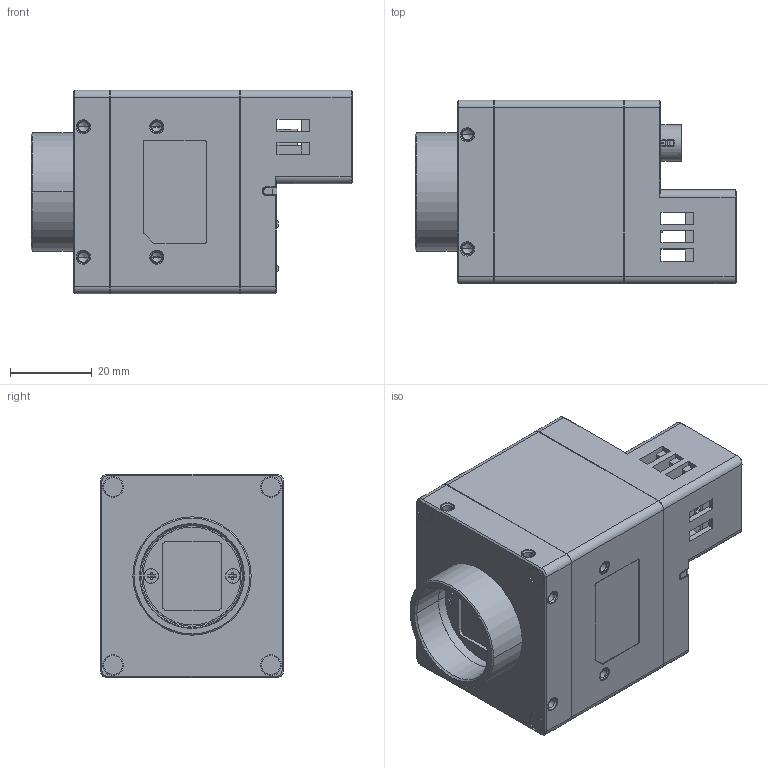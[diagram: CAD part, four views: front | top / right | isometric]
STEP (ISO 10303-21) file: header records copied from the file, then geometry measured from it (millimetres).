
FILE_DESCRIPTION((''),'2;1');
FILE_NAME('00-MV-CH250-90TM-XD-SS_ASM_ASM','2023-02-23T14:45:16',('wangyijun6'),(''),'CREO PARAMETRIC BY PTC INC, 2017260','CREO PARAMETRIC BY PTC INC, 2017260','');
FILE_SCHEMA(('CONFIG_CONTROL_DESIGN'));
Products named in the file (1): 00-MV-CH250-90TM-XD-SS_ASM_ASM
Bounding box: 78.9 x 45 x 50 mm (x, y, z)
Volume: 112812 mm3; surface area: 37966.8 mm2
Topology: 2 solids, 75 shells, 3603 faces, 9763 edges, 6236 vertices
Faces by surface type: plane 1701, cylinder 1132, bspline 321, cone 268, torus 157, extrusion 14, sphere 10
Entity records: 131280 total; most frequent: CARTESIAN_POINT 42853, ORIENTED_EDGE 19193, DIRECTION 17379, EDGE_CURVE 9695, VERTEX_POINT 6235, AXIS2_PLACEMENT_3D 6092, VECTOR 5195, LINE 5181
